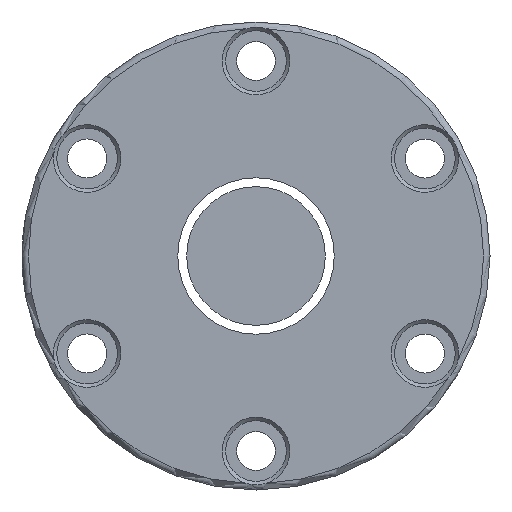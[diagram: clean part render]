
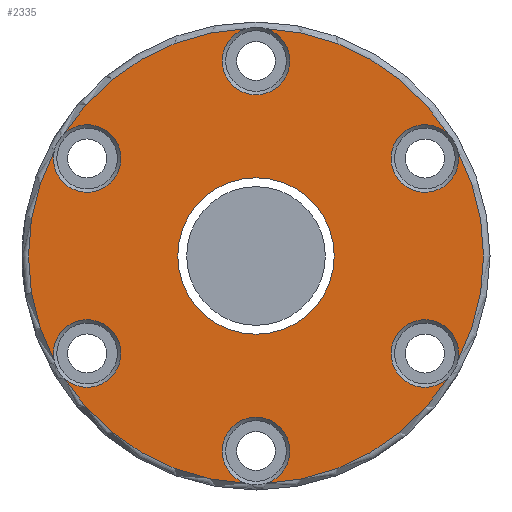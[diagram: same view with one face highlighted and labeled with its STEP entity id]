
A CAD part, left-side view. The second image highlights one B-rep face of the part: STEP entity #2335.
In plain terms, the highlighted planar face has unit normal (-1, 0, 0).
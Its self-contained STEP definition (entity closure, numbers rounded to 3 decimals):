
#5 = EDGE_CURVE ( 'NONE', #1786, #3442, #516, .T. ) ;
#29 = AXIS2_PLACEMENT_3D ( 'NONE', #2133, #2403, #988 ) ;
#32 = VERTEX_POINT ( 'NONE', #124 ) ;
#63 = DIRECTION ( 'NONE',  ( 1., 0., 0. ) ) ;
#70 = VERTEX_POINT ( 'NONE', #2480 ) ;
#124 = CARTESIAN_POINT ( 'NONE',  ( -96., 44.265, -28.228 ) ) ;
#162 = DIRECTION ( 'NONE',  ( -1., 0., 0. ) ) ;
#187 = AXIS2_PLACEMENT_3D ( 'NONE', #3111, #3435, #1682 ) ;
#191 = DIRECTION ( 'NONE',  ( 0., 0., 1. ) ) ;
#199 = CARTESIAN_POINT ( 'NONE',  ( -96., 0., 0. ) ) ;
#209 = CARTESIAN_POINT ( 'NONE',  ( -96., 0., 0. ) ) ;
#210 = AXIS2_PLACEMENT_3D ( 'NONE', #1867, #1833, #2704 ) ;
#246 = DIRECTION ( 'NONE',  ( -1., 0., 0. ) ) ;
#260 = AXIS2_PLACEMENT_3D ( 'NONE', #2984, #63, #2706 ) ;
#263 = AXIS2_PLACEMENT_3D ( 'NONE', #3571, #2663, #340 ) ;
#282 = EDGE_CURVE ( 'NONE', #946, #946, #823, .T. ) ;
#327 = ORIENTED_EDGE ( 'NONE', *, *, #1745, .T. ) ;
#330 = FACE_OUTER_BOUND ( 'NONE', #3528, .T. ) ;
#340 = DIRECTION ( 'NONE',  ( 0., 0., 1. ) ) ;
#352 = ORIENTED_EDGE ( 'NONE', *, *, #493, .T. ) ;
#367 = AXIS2_PLACEMENT_3D ( 'NONE', #199, #162, #2501 ) ;
#477 = CARTESIAN_POINT ( 'NONE',  ( -96., 38.971, 22.5 ) ) ;
#493 = EDGE_CURVE ( 'NONE', #32, #2667, #1813, .T. ) ;
#497 = CARTESIAN_POINT ( 'NONE',  ( -96., 44.265, 28.228 ) ) ;
#501 = EDGE_CURVE ( 'NONE', #1183, #70, #2555, .T. ) ;
#515 = CARTESIAN_POINT ( 'NONE',  ( -96., -44.265, -28.228 ) ) ;
#516 = CIRCLE ( 'NONE', #29, 7.8 ) ;
#566 = CIRCLE ( 'NONE', #260, 7.8 ) ;
#577 = VERTEX_POINT ( 'NONE', #2793 ) ;
#619 = DIRECTION ( 'NONE',  ( 0., 0., 1. ) ) ;
#650 = DIRECTION ( 'NONE',  ( 0., 0., 1. ) ) ;
#698 = CARTESIAN_POINT ( 'NONE',  ( -96., -44.265, 28.228 ) ) ;
#817 = AXIS2_PLACEMENT_3D ( 'NONE', #2631, #2650, #3191 ) ;
#823 = CIRCLE ( 'NONE', #3335, 18.05 ) ;
#851 = DIRECTION ( 'NONE',  ( 0., 0., 1. ) ) ;
#871 = CARTESIAN_POINT ( 'NONE',  ( -96., 0., -45. ) ) ;
#883 = AXIS2_PLACEMENT_3D ( 'NONE', #3054, #3034, #650 ) ;
#906 = EDGE_LOOP ( 'NONE', ( #3308 ) ) ;
#926 = AXIS2_PLACEMENT_3D ( 'NONE', #871, #3541, #619 ) ;
#939 = CARTESIAN_POINT ( 'NONE',  ( -96., 46.579, -24.221 ) ) ;
#946 = VERTEX_POINT ( 'NONE', #2127 ) ;
#974 = ORIENTED_EDGE ( 'NONE', *, *, #2407, .T. ) ;
#988 = DIRECTION ( 'NONE',  ( 0., 0., 1. ) ) ;
#1050 = CIRCLE ( 'NONE', #1552, 52.5 ) ;
#1079 = DIRECTION ( 'NONE',  ( 1., 0., 0. ) ) ;
#1153 = ORIENTED_EDGE ( 'NONE', *, *, #1636, .T. ) ;
#1176 = CIRCLE ( 'NONE', #3132, 7.8 ) ;
#1183 = VERTEX_POINT ( 'NONE', #698 ) ;
#1204 = VERTEX_POINT ( 'NONE', #3737 ) ;
#1311 = EDGE_CURVE ( 'NONE', #577, #1579, #2955, .T. ) ;
#1423 = EDGE_CURVE ( 'NONE', #1579, #1896, #3687, .T. ) ;
#1429 = CIRCLE ( 'NONE', #926, 7.8 ) ;
#1494 = PLANE ( 'NONE',  #3134 ) ;
#1552 = AXIS2_PLACEMENT_3D ( 'NONE', #209, #246, #191 ) ;
#1579 = VERTEX_POINT ( 'NONE', #497 ) ;
#1636 = EDGE_CURVE ( 'NONE', #1204, #1183, #1974, .T. ) ;
#1682 = DIRECTION ( 'NONE',  ( 0., 0., 1. ) ) ;
#1745 = EDGE_CURVE ( 'NONE', #1896, #3061, #1050, .T. ) ;
#1779 = ORIENTED_EDGE ( 'NONE', *, *, #5, .T. ) ;
#1786 = VERTEX_POINT ( 'NONE', #515 ) ;
#1813 = CIRCLE ( 'NONE', #210, 52.5 ) ;
#1816 = CARTESIAN_POINT ( 'NONE',  ( -96., 2.314, -52.449 ) ) ;
#1833 = DIRECTION ( 'NONE',  ( -1., 0., 0. ) ) ;
#1867 = CARTESIAN_POINT ( 'NONE',  ( -96., 0., 0. ) ) ;
#1896 = VERTEX_POINT ( 'NONE', #2313 ) ;
#1925 = CIRCLE ( 'NONE', #263, 52.5 ) ;
#1974 = CIRCLE ( 'NONE', #187, 7.8 ) ;
#2125 = EDGE_CURVE ( 'NONE', #70, #577, #1176, .T. ) ;
#2127 = CARTESIAN_POINT ( 'NONE',  ( -96., 0., -18.05 ) ) ;
#2133 = CARTESIAN_POINT ( 'NONE',  ( -96., -38.971, -22.5 ) ) ;
#2139 = ORIENTED_EDGE ( 'NONE', *, *, #2262, .T. ) ;
#2262 = EDGE_CURVE ( 'NONE', #2667, #3231, #1429, .T. ) ;
#2292 = DIRECTION ( 'NONE',  ( 0., 0., 1. ) ) ;
#2313 = CARTESIAN_POINT ( 'NONE',  ( -96., 46.579, 24.221 ) ) ;
#2335 = ADVANCED_FACE ( 'NONE', ( #330, #3302 ), #1494, .T. ) ;
#2356 = CARTESIAN_POINT ( 'NONE',  ( -96., 0., 0. ) ) ;
#2383 = ORIENTED_EDGE ( 'NONE', *, *, #2125, .T. ) ;
#2403 = DIRECTION ( 'NONE',  ( 1., 0., 0. ) ) ;
#2407 = EDGE_CURVE ( 'NONE', #3061, #32, #566, .T. ) ;
#2480 = CARTESIAN_POINT ( 'NONE',  ( -96., -2.314, 52.449 ) ) ;
#2501 = DIRECTION ( 'NONE',  ( 0., 0., 1. ) ) ;
#2532 = ORIENTED_EDGE ( 'NONE', *, *, #1311, .T. ) ;
#2555 = CIRCLE ( 'NONE', #883, 52.5 ) ;
#2596 = CARTESIAN_POINT ( 'NONE',  ( -96., 0., 45. ) ) ;
#2631 = CARTESIAN_POINT ( 'NONE',  ( -96., 0., 0. ) ) ;
#2650 = DIRECTION ( 'NONE',  ( -1., 0., 0. ) ) ;
#2663 = DIRECTION ( 'NONE',  ( -1., 0., 0. ) ) ;
#2667 = VERTEX_POINT ( 'NONE', #1816 ) ;
#2670 = DIRECTION ( 'NONE',  ( 1., 0., 0. ) ) ;
#2686 = DIRECTION ( 'NONE',  ( -1., 0., 0. ) ) ;
#2704 = DIRECTION ( 'NONE',  ( 0., 0., 1. ) ) ;
#2706 = DIRECTION ( 'NONE',  ( 0., 0., 1. ) ) ;
#2793 = CARTESIAN_POINT ( 'NONE',  ( -96., 2.314, 52.449 ) ) ;
#2891 = DIRECTION ( 'NONE',  ( 1., 0., 0. ) ) ;
#2944 = CARTESIAN_POINT ( 'NONE',  ( -96., 54., 0. ) ) ;
#2955 = CIRCLE ( 'NONE', #367, 52.5 ) ;
#2984 = CARTESIAN_POINT ( 'NONE',  ( -96., 38.971, -22.5 ) ) ;
#2985 = ORIENTED_EDGE ( 'NONE', *, *, #1423, .T. ) ;
#3034 = DIRECTION ( 'NONE',  ( -1., 0., 0. ) ) ;
#3054 = CARTESIAN_POINT ( 'NONE',  ( -96., 0., 0. ) ) ;
#3059 = EDGE_CURVE ( 'NONE', #3442, #1204, #1925, .T. ) ;
#3061 = VERTEX_POINT ( 'NONE', #939 ) ;
#3111 = CARTESIAN_POINT ( 'NONE',  ( -96., -38.971, 22.5 ) ) ;
#3132 = AXIS2_PLACEMENT_3D ( 'NONE', #2596, #2670, #851 ) ;
#3134 = AXIS2_PLACEMENT_3D ( 'NONE', #2944, #2686, #3247 ) ;
#3189 = DIRECTION ( 'NONE',  ( 0., 0., -1. ) ) ;
#3191 = DIRECTION ( 'NONE',  ( 0., 0., 1. ) ) ;
#3211 = CIRCLE ( 'NONE', #817, 52.5 ) ;
#3231 = VERTEX_POINT ( 'NONE', #3325 ) ;
#3247 = DIRECTION ( 'NONE',  ( 0., 0., 1. ) ) ;
#3302 = FACE_BOUND ( 'NONE', #906, .T. ) ;
#3308 = ORIENTED_EDGE ( 'NONE', *, *, #282, .T. ) ;
#3325 = CARTESIAN_POINT ( 'NONE',  ( -96., -2.314, -52.449 ) ) ;
#3335 = AXIS2_PLACEMENT_3D ( 'NONE', #2356, #2891, #3189 ) ;
#3435 = DIRECTION ( 'NONE',  ( 1., 0., 0. ) ) ;
#3442 = VERTEX_POINT ( 'NONE', #3521 ) ;
#3510 = EDGE_CURVE ( 'NONE', #3231, #1786, #3211, .T. ) ;
#3521 = CARTESIAN_POINT ( 'NONE',  ( -96., -46.579, -24.221 ) ) ;
#3528 = EDGE_LOOP ( 'NONE', ( #2383, #2532, #2985, #327, #974, #352, #2139, #3697, #1779, #3556, #1153, #3717 ) ) ;
#3541 = DIRECTION ( 'NONE',  ( 1., 0., 0. ) ) ;
#3556 = ORIENTED_EDGE ( 'NONE', *, *, #3059, .T. ) ;
#3566 = AXIS2_PLACEMENT_3D ( 'NONE', #477, #1079, #2292 ) ;
#3571 = CARTESIAN_POINT ( 'NONE',  ( -96., 0., 0. ) ) ;
#3687 = CIRCLE ( 'NONE', #3566, 7.8 ) ;
#3697 = ORIENTED_EDGE ( 'NONE', *, *, #3510, .T. ) ;
#3717 = ORIENTED_EDGE ( 'NONE', *, *, #501, .T. ) ;
#3737 = CARTESIAN_POINT ( 'NONE',  ( -96., -46.579, 24.221 ) ) ;
